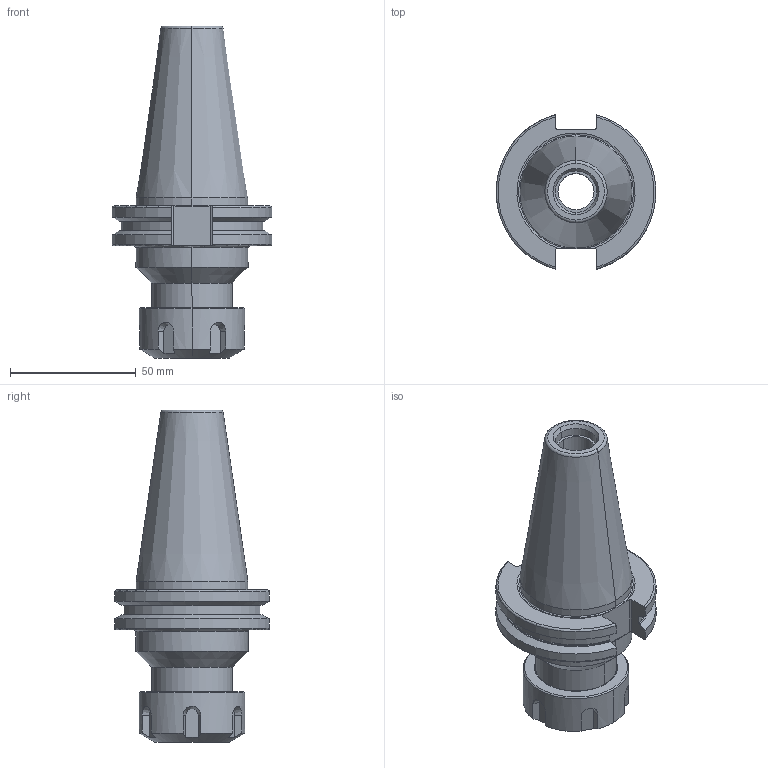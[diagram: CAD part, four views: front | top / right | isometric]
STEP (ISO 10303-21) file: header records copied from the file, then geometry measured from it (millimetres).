
FILE_DESCRIPTION (( 'STEP AP214' ), '1' );
FILE_NAME ('RC4ER25250.STEP', '2019-02-04T21:28:04', ( '' ), ( '' ), 'SwSTEP 2.0', 'SolidWorks 2019', '' );
FILE_SCHEMA (( 'AUTOMOTIVE_DESIGN' ));
Length unit declared in the file: inch
Products named in the file (1): RC4ER25250
Bounding box: 63.26 x 61.35 x 131.75 mm (x, y, z)
Volume: 130575.7 mm3; surface area: 31108.9 mm2
Topology: 1 solids, 1 shells, 337 faces, 881 edges, 572 vertices
Faces by surface type: plane 204, cylinder 38, bspline 38, cone 37, torus 20
Entity records: 17171 total; most frequent: CARTESIAN_POINT 4711, ORIENTED_EDGE 1758, DIRECTION 1493, EDGE_CURVE 879, LINE 601, VECTOR 601, VERTEX_POINT 572, AXIS2_PLACEMENT_3D 446
